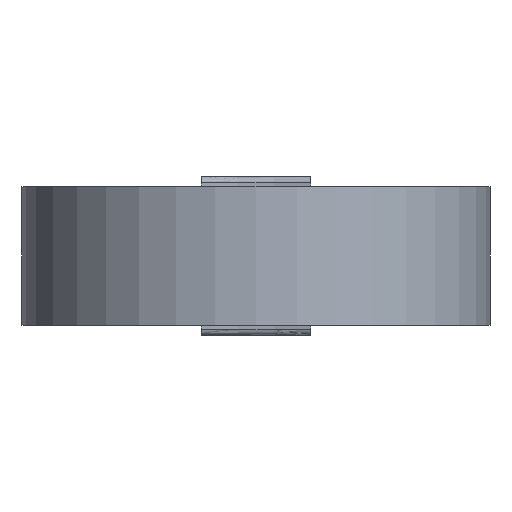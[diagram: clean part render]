
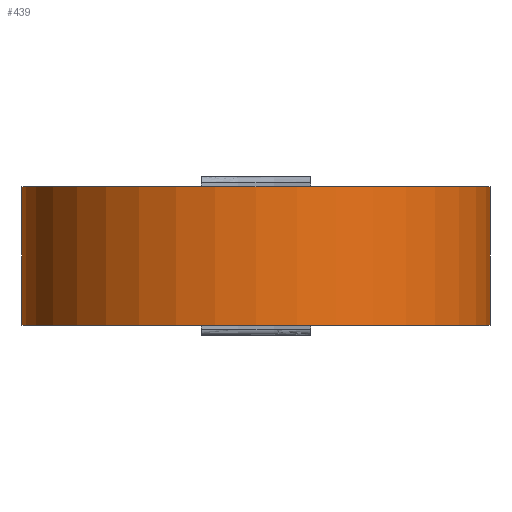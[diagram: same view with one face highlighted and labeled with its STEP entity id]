
A CAD part, front view. The second image highlights one B-rep face of the part: STEP entity #439.
In plain terms, the highlighted cylindrical face has radius 23.6 mm (diameter 47.2 mm), a partial arc.
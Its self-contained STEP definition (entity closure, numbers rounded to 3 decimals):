
#317=CARTESIAN_POINT('',(23.6,0.,7.));
#318=VERTEX_POINT('',#317);
#319=CARTESIAN_POINT('',(23.6,0.,-7.));
#320=VERTEX_POINT('',#319);
#321=CARTESIAN_POINT('',(23.6,0.,7.));
#322=DIRECTION('',(0.0,0.0,-1.0));
#323=VECTOR('',#322,14.);
#324=LINE('',#321,#323);
#325=EDGE_CURVE('',#318,#320,#324,.T.);
#407=CARTESIAN_POINT('',(0.0,0.0,0.0));
#408=DIRECTION('',(0.0,0.0,1.0));
#409=DIRECTION('',(-1.0,0.0,0.0));
#410=AXIS2_PLACEMENT_3D('',#407,#408,#409);
#411=CYLINDRICAL_SURFACE('',#410,23.6);
#412=CARTESIAN_POINT('',(-23.6,0.,-7.));
#413=VERTEX_POINT('',#412);
#414=CARTESIAN_POINT('',(-23.6,0.,7.));
#415=VERTEX_POINT('',#414);
#416=CARTESIAN_POINT('',(-23.6,0.,-7.));
#417=DIRECTION('',(0.0,0.0,1.0));
#418=VECTOR('',#417,14.);
#419=LINE('',#416,#418);
#420=EDGE_CURVE('',#413,#415,#419,.T.);
#421=ORIENTED_EDGE('',*,*,#420,.F.);
#422=CARTESIAN_POINT('',(0.0,0.0,-7.));
#423=DIRECTION('',(0.0,0.0,1.0));
#424=DIRECTION('',(-1.0,0.0,0.0));
#425=AXIS2_PLACEMENT_3D('',#422,#423,#424);
#426=CIRCLE('',#425,23.6);
#427=EDGE_CURVE('',#413,#320,#426,.T.);
#428=ORIENTED_EDGE('',*,*,#427,.T.);
#429=ORIENTED_EDGE('',*,*,#325,.F.);
#430=CARTESIAN_POINT('',(0.0,0.0,7.));
#431=DIRECTION('',(0.0,0.0,-1.0));
#432=DIRECTION('',(-1.0,0.0,0.0));
#433=AXIS2_PLACEMENT_3D('',#430,#431,#432);
#434=CIRCLE('',#433,23.6);
#435=EDGE_CURVE('',#318,#415,#434,.T.);
#436=ORIENTED_EDGE('',*,*,#435,.T.);
#437=EDGE_LOOP('',(#421,#428,#429,#436));
#438=FACE_OUTER_BOUND('',#437,.T.);
#439=ADVANCED_FACE('',(#438),#411,.T.);
